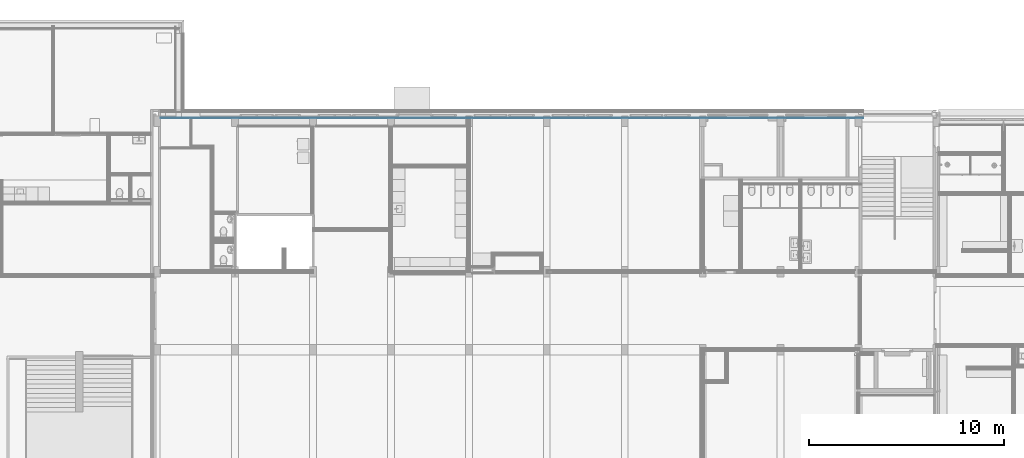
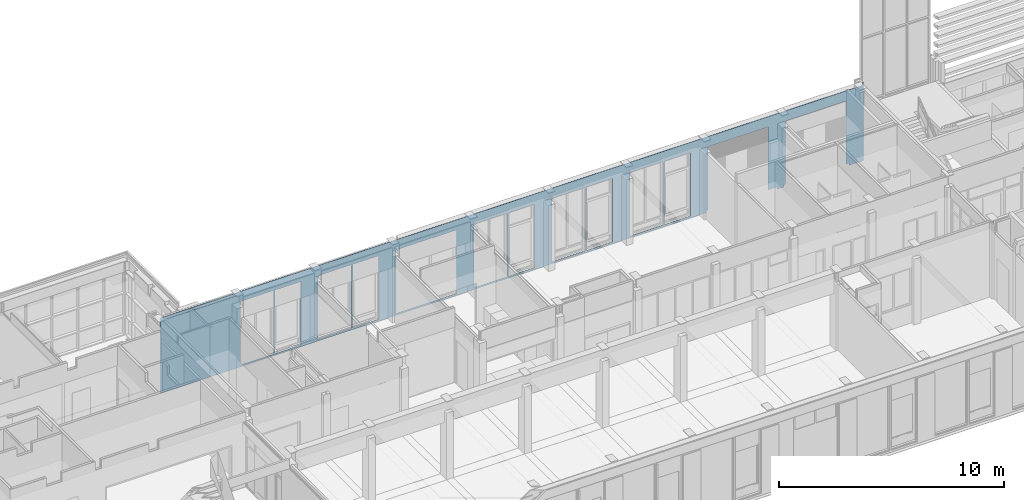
# One storey, part 71 of 109: 1 building element part, 14 openings, 1 element without a shape of its own.
"""IFC2X3 building model written with IfcOpenShell, lengths in millimetres."""

from ifc_helpers import new_model, entity, si_unit, converted_unit, derived_unit, money_unit, direction, frame, origin_with_axes, place, context, subcontext, project, spatial, faceted_brep, material, type_object, element, aggregate, save


model = new_model("IFC2X3")

# Units and contexts
model_context = context("Model", 3, precision=0.01, world=origin_with_axes(), true_north=direction((0.0, 1.0)))
body_context = subcontext(model_context, "Body", "Model", "MODEL_VIEW")
ifc_project = project(units=[si_unit("LENGTHUNIT", "METRE", prefix="MILLI"), si_unit("AREAUNIT", "SQUARE_METRE"), si_unit("VOLUMEUNIT", "CUBIC_METRE"), converted_unit("PLANEANGLEUNIT", "DEGREE", entity("IfcPlaneAngleMeasure", 0.0174532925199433), si_unit("PLANEANGLEUNIT", "RADIAN"), dimensions=[0, 0, 0, 0, 0, 0, 0]), money_unit("EUR"), converted_unit("TIMEUNIT", "Year", entity("IfcTimeMeasure", 31557600.0), si_unit("TIMEUNIT", "SECOND"), dimensions=[0, 0, 1, 0, 0, 0, 0]), si_unit("MASSUNIT", "GRAM", prefix="KILO"), si_unit("THERMODYNAMICTEMPERATUREUNIT", "DEGREE_CELSIUS"), si_unit("LUMINOUSINTENSITYUNIT", "LUMEN"), si_unit("ENERGYUNIT", "JOULE", prefix="MEGA"), derived_unit("THERMALCONDUCTANCEUNIT", [(si_unit("POWERUNIT", "WATT"), 1), (si_unit("LENGTHUNIT", "METRE"), -1), (si_unit("THERMODYNAMICTEMPERATUREUNIT", "KELVIN"), -1)]), derived_unit("SPECIFICHEATCAPACITYUNIT", [(si_unit("ENERGYUNIT", "JOULE"), 1), (si_unit("MASSUNIT", "GRAM", prefix="KILO"), -1), (si_unit("THERMODYNAMICTEMPERATUREUNIT", "KELVIN"), -1)]), derived_unit("MASSDENSITYUNIT", [(si_unit("MASSUNIT", "GRAM", prefix="KILO"), 1), (si_unit("VOLUMEUNIT", "CUBIC_METRE"), -1)])], contexts=[model_context])

# Site, building, storey
site_placement = place(None, origin_with_axes())
site = spatial("IfcSite", under=ifc_project, at=site_placement, Name="<site naam>", CompositionType="ELEMENT")
building_placement = place(site_placement, origin_with_axes())
building = spatial("IfcBuilding", under=site, at=building_placement, Name="<Naam gebouw>", CompositionType="ELEMENT")
storey_placement = place(building_placement, origin_with_axes())
storey = spatial("IfcBuildingStorey", under=building, at=storey_placement, Name="00 Begane grond", CompositionType="ELEMENT", Elevation=0.0)

# Wall, openings, building element part
wall_type = type_object("IfcWallType", Name="HSB_285 gevelbeplating 420", PredefinedType="NOTDEFINED")
wall_placement = place(storey_placement, frame((48251.99999966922, 20297.99999999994, 0.0), z_axis=(0.0, 0.0, 1.0), x_axis=(-1.0, 0.0, 0.0)))
wall = element("IfcWall", 1, at=wall_placement, inside=storey, type_object=wall_type, Name="21_Binnenwand_HSB_285")
opening_1_placement = place(wall_placement, frame((17550.9999996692, 0.0, 100.0), z_axis=(0.0, 0.0, 1.0), x_axis=(1.0, 0.0, 0.0)))
element("IfcOpeningElement", 2, at=opening_1_placement, cuts=wall, Name="21_BU-A-01b sp_305", context=body_context, shape_type="Brep", body=[
    faceted_brep([(663.0000000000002, 212.9999999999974, 3450.0), (-663.0000000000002, 212.9999999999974, 3450.0), (-663.0000000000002, -1.000000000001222, 3450.0), (663.0000000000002, -1.000000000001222, 3450.0), (663.0000000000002, 421.000000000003, 3450.0), (-663.0000000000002, 421.000000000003, 3450.0), (-663.0000000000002, 212.9999999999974, 0.0), (-663.0000000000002, -1.000000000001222, 0.0), (663.0000000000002, -1.000000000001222, 0.0), (663.0000000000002, 212.9999999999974, 0.0), (663.0000000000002, 421.000000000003, 0.0), (-663.0000000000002, 421.000000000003, 0.0)], [[[0, 1, 2, 3]], [[1, 0, 4, 5]], [[1, 6, 7, 2]], [[2, 7, 8, 3]], [[9, 0, 3, 8]], [[0, 9, 10, 4]], [[4, 10, 11, 5]], [[6, 1, 5, 11]], [[6, 9, 8, 7]], [[9, 6, 11, 10]]]),
])
opening_2_placement = place(wall_placement, frame((25551.00012310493, 0.0, 100.0), z_axis=(0.0, 0.0, 1.0), x_axis=(1.0, 0.0, 0.0)))
element("IfcOpeningElement", 3, at=opening_2_placement, cuts=wall, Name="21_BU-A-01b sp_305", context=body_context, shape_type="Brep", body=[
    faceted_brep([(663.0000000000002, 212.9999999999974, 3450.0), (-663.0000000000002, 212.9999999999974, 3450.0), (-663.0000000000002, -1.000000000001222, 3450.0), (663.0000000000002, -1.000000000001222, 3450.0), (663.0000000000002, 421.000000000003, 3450.0), (-663.0000000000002, 421.000000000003, 3450.0), (-663.0000000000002, 212.9999999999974, 0.0), (-663.0000000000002, -1.000000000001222, 0.0), (663.0000000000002, -1.000000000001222, 0.0), (663.0000000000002, 212.9999999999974, 0.0), (663.0000000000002, 421.000000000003, 0.0), (-663.0000000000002, 421.000000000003, 0.0)], [[[0, 1, 2, 3]], [[1, 0, 4, 5]], [[1, 6, 7, 2]], [[2, 7, 8, 3]], [[9, 0, 3, 8]], [[0, 9, 10, 4]], [[4, 10, 11, 5]], [[6, 1, 5, 11]], [[6, 9, 8, 7]], [[9, 6, 11, 10]]]),
])
opening_3_placement = place(wall_placement, frame((27140.99995093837, 0.0, 100.0), z_axis=(0.0, 0.0, 1.0), x_axis=(1.0, 0.0, 0.0)))
element("IfcOpeningElement", 4, at=opening_3_placement, cuts=wall, Name="21_BU-A-01a sp_305", context=body_context, shape_type="Brep", body=[
    faceted_brep([(850.9999999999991, 212.9999999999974, 3450.0), (-850.9999999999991, 212.9999999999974, 3450.0), (-850.9999999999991, -1.000000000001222, 3450.0), (850.9999999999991, -1.000000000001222, 3450.0), (850.9999999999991, 421.000000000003, 3450.0), (-850.9999999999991, 421.000000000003, 3450.0), (-850.9999999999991, 212.9999999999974, 0.0), (-850.9999999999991, -1.000000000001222, 0.0), (850.9999999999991, -1.000000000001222, 0.0), (850.9999999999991, 212.9999999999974, 0.0), (850.9999999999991, 421.000000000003, 0.0), (-850.9999999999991, 421.000000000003, 0.0)], [[[0, 1, 2, 3]], [[1, 0, 4, 5]], [[1, 6, 7, 2]], [[2, 7, 8, 3]], [[9, 0, 3, 8]], [[0, 9, 10, 4]], [[4, 10, 11, 5]], [[6, 1, 5, 11]], [[6, 9, 8, 7]], [[9, 6, 11, 10]]]),
])
opening_4_placement = place(wall_placement, frame((19140.98053610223, 0.0, 100.0), z_axis=(0.0, 0.0, 1.0), x_axis=(1.0, 0.0, 0.0)))
element("IfcOpeningElement", 5, at=opening_4_placement, cuts=wall, Name="21_BU-A-01a sp_305", context=body_context, shape_type="Brep", body=[
    faceted_brep([(850.9999999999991, 212.9999999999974, 3450.0), (-850.9999999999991, 212.9999999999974, 3450.0), (-850.9999999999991, -1.000000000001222, 3450.0), (850.9999999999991, -1.000000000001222, 3450.0), (850.9999999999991, 421.000000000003, 3450.0), (-850.9999999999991, 421.000000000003, 3450.0), (-850.9999999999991, 212.9999999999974, 0.0), (-850.9999999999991, -1.000000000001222, 0.0), (850.9999999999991, -1.000000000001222, 0.0), (850.9999999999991, 212.9999999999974, 0.0), (850.9999999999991, 421.000000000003, 0.0), (-850.9999999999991, 421.000000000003, 0.0)], [[[0, 1, 2, 3]], [[1, 0, 4, 5]], [[1, 6, 7, 2]], [[2, 7, 8, 3]], [[9, 0, 3, 8]], [[0, 9, 10, 4]], [[4, 10, 11, 5]], [[6, 1, 5, 11]], [[6, 9, 8, 7]], [[9, 6, 11, 10]]]),
])
opening_5_placement = place(wall_placement, frame((9551.000010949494, 0.0, 100.0), z_axis=(0.0, 0.0, 1.0), x_axis=(1.0, 0.0, 0.0)))
element("IfcOpeningElement", 6, at=opening_5_placement, cuts=wall, Name="21_BU-A-01b sp_305", context=body_context, shape_type="Brep", body=[
    faceted_brep([(662.9999999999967, 213.000000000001, 3450.0), (-662.9999999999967, 213.000000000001, 3450.0), (-662.9999999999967, -1.000000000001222, 3450.0), (662.9999999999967, -1.000000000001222, 3450.0), (662.9999999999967, 421.000000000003, 3450.0), (-662.9999999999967, 421.000000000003, 3450.0), (-662.9999999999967, 213.000000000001, 0.0), (-662.9999999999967, -1.000000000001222, 0.0), (662.9999999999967, -1.000000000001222, 0.0), (662.9999999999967, 213.000000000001, 0.0), (662.9999999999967, 421.000000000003, 0.0), (-662.9999999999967, 421.000000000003, 0.0)], [[[0, 1, 2, 3]], [[1, 0, 4, 5]], [[1, 6, 7, 2]], [[2, 7, 8, 3]], [[9, 0, 3, 8]], [[0, 9, 10, 4]], [[4, 10, 11, 5]], [[6, 1, 5, 11]], [[6, 9, 8, 7]], [[9, 6, 11, 10]]]),
])
opening_6_placement = place(wall_placement, frame((13550.99999966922, 0.0, 100.0), z_axis=(0.0, 0.0, 1.0), x_axis=(1.0, 0.0, 0.0)))
element("IfcOpeningElement", 7, at=opening_6_placement, cuts=wall, Name="21_BU-A-01b sp_305", context=body_context, shape_type="Brep", body=[
    faceted_brep([(662.9999999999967, 213.000000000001, 3450.0), (-662.9999999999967, 213.000000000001, 3450.0), (-662.9999999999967, -1.000000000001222, 3450.0), (662.9999999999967, -1.000000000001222, 3450.0), (662.9999999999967, 421.000000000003, 3450.0), (-662.9999999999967, 421.000000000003, 3450.0), (-662.9999999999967, 213.000000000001, 0.0), (-662.9999999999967, -1.000000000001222, 0.0), (662.9999999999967, -1.000000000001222, 0.0), (662.9999999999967, 213.000000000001, 0.0), (662.9999999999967, 421.000000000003, 0.0), (-662.9999999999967, 421.000000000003, 0.0)], [[[0, 1, 2, 3]], [[1, 0, 4, 5]], [[1, 6, 7, 2]], [[2, 7, 8, 3]], [[9, 0, 3, 8]], [[0, 9, 10, 4]], [[4, 10, 11, 5]], [[6, 1, 5, 11]], [[6, 9, 8, 7]], [[9, 6, 11, 10]]]),
])
opening_7_placement = place(wall_placement, frame((11140.9999996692, 0.0, 100.0), z_axis=(0.0, 0.0, 1.0), x_axis=(1.0, 0.0, 0.0)))
element("IfcOpeningElement", 8, at=opening_7_placement, cuts=wall, Name="21_BU-A-01a sp_305", context=body_context, shape_type="Brep", body=[
    faceted_brep([(850.9999999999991, 213.000000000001, 3450.0), (-850.9999999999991, 213.000000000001, 3450.0), (-850.9999999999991, -1.000000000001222, 3450.0), (850.9999999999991, -1.000000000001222, 3450.0), (850.9999999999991, 421.000000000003, 3450.0), (-850.9999999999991, 421.000000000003, 3450.0), (-850.9999999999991, 213.000000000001, 0.0), (-850.9999999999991, -1.000000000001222, 0.0), (850.9999999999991, -1.000000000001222, 0.0), (850.9999999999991, 213.000000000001, 0.0), (850.9999999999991, 421.000000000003, 0.0), (-850.9999999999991, 421.000000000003, 0.0)], [[[0, 1, 2, 3]], [[1, 0, 4, 5]], [[1, 6, 7, 2]], [[2, 7, 8, 3]], [[9, 0, 3, 8]], [[0, 9, 10, 4]], [[4, 10, 11, 5]], [[6, 1, 5, 11]], [[6, 9, 8, 7]], [[9, 6, 11, 10]]]),
])
opening_8_placement = place(wall_placement, frame((21551.00000902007, 0.0, 100.0), z_axis=(0.0, 0.0, 1.0), x_axis=(1.0, 0.0, 0.0)))
element("IfcOpeningElement", 9, at=opening_8_placement, cuts=wall, Name="21_BU-A-01b sp_305", context=body_context, shape_type="Brep", body=[
    faceted_brep([(663.0000000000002, 212.9999999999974, 3450.0), (-663.0000000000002, 212.9999999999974, 3450.0), (-663.0000000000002, -1.000000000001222, 3450.0), (663.0000000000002, -1.000000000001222, 3450.0), (663.0000000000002, 421.000000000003, 3450.0), (-663.0000000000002, 421.000000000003, 3450.0), (-663.0000000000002, 212.9999999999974, 0.0), (-663.0000000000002, -1.000000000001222, 0.0), (663.0000000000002, -1.000000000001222, 0.0), (663.0000000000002, 212.9999999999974, 0.0), (663.0000000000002, 421.000000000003, 0.0), (-663.0000000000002, 421.000000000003, 0.0)], [[[0, 1, 2, 3]], [[1, 0, 4, 5]], [[1, 6, 7, 2]], [[2, 7, 8, 3]], [[9, 0, 3, 8]], [[0, 9, 10, 4]], [[4, 10, 11, 5]], [[6, 1, 5, 11]], [[6, 9, 8, 7]], [[9, 6, 11, 10]]]),
])
opening_9_placement = place(wall_placement, frame((29550.99999966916, 0.0, 100.0), z_axis=(0.0, 0.0, 1.0), x_axis=(1.0, 0.0, 0.0)))
element("IfcOpeningElement", 10, at=opening_9_placement, cuts=wall, Name="21_BU-A-01b sp_305", context=body_context, shape_type="Brep", body=[
    faceted_brep([(663.0000000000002, 212.9999999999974, 3450.0), (-663.0000000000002, 212.9999999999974, 3450.0), (-663.0000000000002, -1.000000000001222, 3450.0), (663.0000000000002, -1.000000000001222, 3450.0), (663.0000000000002, 421.000000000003, 3450.0), (-663.0000000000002, 421.000000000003, 3450.0), (-663.0000000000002, 212.9999999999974, 0.0), (-663.0000000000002, -1.000000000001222, 0.0), (663.0000000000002, -1.000000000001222, 0.0), (663.0000000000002, 212.9999999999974, 0.0), (663.0000000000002, 421.000000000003, 0.0), (-663.0000000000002, 421.000000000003, 0.0)], [[[0, 1, 2, 3]], [[1, 0, 4, 5]], [[1, 6, 7, 2]], [[2, 7, 8, 3]], [[9, 0, 3, 8]], [[0, 9, 10, 4]], [[4, 10, 11, 5]], [[6, 1, 5, 11]], [[6, 9, 8, 7]], [[9, 6, 11, 10]]]),
])
opening_10_placement = place(wall_placement, frame((31140.99993875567, 0.0, 100.0), z_axis=(0.0, 0.0, 1.0), x_axis=(1.0, 0.0, 0.0)))
element("IfcOpeningElement", 11, at=opening_10_placement, cuts=wall, Name="21_BU-A-01a sp_305", context=body_context, shape_type="Brep", body=[
    faceted_brep([(850.9999999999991, 212.9999999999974, 3450.0), (-850.9999999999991, 212.9999999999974, 3450.0), (-850.9999999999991, -1.000000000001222, 3450.0), (850.9999999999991, -1.000000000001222, 3450.0), (850.9999999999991, 421.000000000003, 3450.0), (-850.9999999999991, 421.000000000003, 3450.0), (-850.9999999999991, 212.9999999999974, 0.0), (-850.9999999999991, -1.000000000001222, 0.0), (850.9999999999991, -1.000000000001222, 0.0), (850.9999999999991, 212.9999999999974, 0.0), (850.9999999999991, 421.000000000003, 0.0), (-850.9999999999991, 421.000000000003, 0.0)], [[[0, 1, 2, 3]], [[1, 0, 4, 5]], [[1, 6, 7, 2]], [[2, 7, 8, 3]], [[9, 0, 3, 8]], [[0, 9, 10, 4]], [[4, 10, 11, 5]], [[6, 1, 5, 11]], [[6, 9, 8, 7]], [[9, 6, 11, 10]]]),
])
opening_11_placement = place(wall_placement, frame((23073.49996408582, 0.0, 103.0000398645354), z_axis=(0.0, 0.0, 1.0), x_axis=(1.0, 0.0, 0.0)))
element("IfcOpeningElement", 12, at=opening_11_placement, cuts=wall, Name="21_BU-C-02_305", context=body_context, shape_type="Brep", body=[
    faceted_brep([(918.4999990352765, 204.9999999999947, 3451.998648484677), (-918.4999990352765, 204.9999999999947, 3451.998648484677), (-918.4999990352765, -1.000000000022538, 3451.998648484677), (918.4999990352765, -1.000000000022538, 3451.998648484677), (918.4999990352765, 421.000000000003, 3451.998648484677), (-918.4999990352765, 421.000000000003, 3451.998648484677), (-918.4999990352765, 204.9999999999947, 0.0), (-918.4999990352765, -1.000000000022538, 0.0), (918.4999990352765, -1.000000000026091, 0.0), (918.4999990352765, 204.9999999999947, 0.0), (918.4999990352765, 421.000000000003, 0.0), (-918.4999990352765, 421.000000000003, 0.0)], [[[0, 1, 2, 3]], [[1, 0, 4, 5]], [[1, 6, 7, 2]], [[2, 7, 8, 3]], [[9, 0, 3, 8]], [[0, 9, 10, 4]], [[4, 10, 11, 5]], [[6, 1, 5, 11]], [[6, 9, 8, 7]], [[9, 6, 11, 10]]]),
])
opening_12_placement = place(wall_placement, frame((2441.000957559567, 0.0, 78.00000000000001), z_axis=(0.0, 0.0, 1.0), x_axis=(1.0, 0.0, 0.0)))
element("IfcOpeningElement", 13, at=opening_12_placement, cuts=wall, Name="21_BU-F-01_305", context=body_context, shape_type="Brep", body=[
    faceted_brep([(1552.0, 204.9999999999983, 3472.000000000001), (-1552.0, 204.9999999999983, 3472.000000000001), (-1552.0, -1.000000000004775, 3472.000000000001), (1552.0, -1.000000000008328, 3472.000000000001), (1552.0, 421.000000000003, 3472.000000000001), (-1552.0, 421.000000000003, 3472.000000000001), (-1552.0, 204.9999999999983, 0.0), (-1552.0, -1.000000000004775, 0.0), (1552.0, -1.000000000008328, 0.0), (1552.0, 204.9999999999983, 0.0), (1552.0, 421.000000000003, 0.0), (-1552.0, 421.000000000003, 0.0)], [[[0, 1, 2, 3]], [[1, 0, 4, 5]], [[1, 6, 7, 2]], [[2, 7, 8, 3]], [[9, 0, 3, 8]], [[0, 9, 10, 4]], [[4, 10, 11, 5]], [[6, 1, 5, 11]], [[6, 9, 8, 7]], [[9, 6, 11, 10]]]),
])
opening_13_placement = place(wall_placement, frame((6439.999999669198, 0.0, 77.99999999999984), z_axis=(0.0, 0.0, 1.0), x_axis=(1.0, 0.0, 0.0)))
element("IfcOpeningElement", 14, at=opening_13_placement, cuts=wall, Name="21_BU-F-01_305", context=body_context, shape_type="Brep", body=[
    faceted_brep([(1552.0, 204.9999999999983, 3472.000000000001), (-1552.0, 204.9999999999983, 3472.000000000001), (-1552.0, -1.000000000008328, 3472.000000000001), (1552.0, -1.00000000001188, 3472.000000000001), (1552.0, 421.000000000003, 3472.000000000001), (-1552.0, 421.000000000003, 3472.000000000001), (-1552.0, 204.9999999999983, 0.0), (-1552.0, -1.000000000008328, 0.0), (1552.0, -1.00000000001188, 0.0), (1552.0, 204.9999999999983, 0.0), (1552.0, 421.000000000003, 0.0), (-1552.0, 421.000000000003, 0.0)], [[[0, 1, 2, 3]], [[1, 0, 4, 5]], [[1, 6, 7, 2]], [[2, 7, 8, 3]], [[9, 0, 3, 8]], [[0, 9, 10, 4]], [[4, 10, 11, 5]], [[6, 1, 5, 11]], [[6, 9, 8, 7]], [[9, 6, 11, 10]]]),
])
opening_14_placement = place(wall_placement, frame((15140.99984577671, 0.0, 100.0), z_axis=(0.0, 0.0, 1.0), x_axis=(1.0, 0.0, 0.0)))
element("IfcOpeningElement", 15, at=opening_14_placement, cuts=wall, Name="21_BU-A-01a sp_305", context=body_context, shape_type="Brep", body=[
    faceted_brep([(850.9999999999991, 212.9999999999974, 3450.0), (-850.9999999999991, 212.9999999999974, 3450.0), (-850.9999999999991, -1.000000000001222, 3450.0), (850.9999999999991, -1.000000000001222, 3450.0), (850.9999999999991, 421.000000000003, 3450.0), (-850.9999999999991, 421.000000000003, 3450.0), (-850.9999999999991, 212.9999999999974, 0.0), (-850.9999999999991, -1.000000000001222, 0.0), (850.9999999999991, -1.000000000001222, 0.0), (850.9999999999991, 212.9999999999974, 0.0), (850.9999999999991, 421.000000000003, 0.0), (-850.9999999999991, 421.000000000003, 0.0)], [[[0, 1, 2, 3]], [[1, 0, 4, 5]], [[1, 6, 7, 2]], [[2, 7, 8, 3]], [[9, 0, 3, 8]], [[0, 9, 10, 4]], [[4, 10, 11, 5]], [[6, 1, 5, 11]], [[6, 9, 8, 7]], [[9, 6, 11, 10]]]),
])
ifc_material = material(Name="hout_OSB")
building_element_part_placement = place(wall_placement, origin_with_axes())
building_element_part = element("IfcBuildingElementPart", 16, at=building_element_part_placement, material=ifc_material, Name="hout_OSB", context=body_context, shape_type="Brep", body=[
    faceted_brep([(32116.47051499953, 392.5000000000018, 4100.000000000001), (77.42214540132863, 392.5000000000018, 4100.000000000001), (77.42214540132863, 392.5000000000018, 4250.0), (0.0, 392.5000000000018, 4250.0), (0.0, 392.4999999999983, 3.000000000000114), (76.9999996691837, 392.5000000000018, 3.000000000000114), (76.9999996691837, 392.4999999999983, 0.0), (739.1156105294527, 392.4999999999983, 0.0), (739.1156105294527, 392.5000000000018, 129.9999999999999), (4076.999999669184, 392.5000000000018, 129.9999999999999), (4076.999999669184, 392.4999999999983, 0.0), (4426.999999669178, 392.4999999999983, 0.0), (4426.999999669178, 392.5000000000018, 129.9999999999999), (8077.000047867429, 392.5000000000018, 129.9999999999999), (8077.000047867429, 392.4999999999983, 0.0), (8326.999999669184, 392.4999999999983, 0.0), (8326.999999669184, 392.5000000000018, 3.000000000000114), (20176.99984466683, 392.4999999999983, 3.000000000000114), (20176.99984466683, 392.4999999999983, 0.0), (20326.99993134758, 392.4999999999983, 0.0), (20326.99993134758, 392.4999999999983, 3.000000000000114), (24177.00005669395, 392.4999999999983, 3.000000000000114), (24177.00005669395, 392.4999999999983, 0.0), (24426.99990839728, 392.4999999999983, 0.0), (24426.99990839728, 392.4999999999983, 3.000000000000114), (28076.99984942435, 392.4999999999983, 3.000000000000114), (28076.99984942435, 392.4999999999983, 0.0), (28427.00011923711, 392.4999999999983, 0.0), (28427.00011923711, 392.4999999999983, 3.000000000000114), (32077.00001533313, 392.4999999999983, 3.000000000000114), (32077.00001533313, 392.4999999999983, 0.0), (32427.00006550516, 392.4999999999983, 0.0), (32427.00006550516, 392.4999999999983, 3.000000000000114), (34464.49991009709, 392.4999999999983, 3.000000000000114), (34464.49991009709, 392.4999999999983, 0.0), (36076.99999966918, 392.4999999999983, 0.0), (36076.99999966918, 392.4999999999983, 4100.000000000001), (35766.47051499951, 392.5000000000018, 4100.000000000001), (35766.47051499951, 392.5000000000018, 4090.499903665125), (32116.47051499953, 392.5000000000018, 4090.499903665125), (4427.000040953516, 392.5000000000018, 3555.000039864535), (8076.999999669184, 392.5000000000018, 3555.000039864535), (8076.999999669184, 392.5000000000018, 2729.999960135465), (4427.000040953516, 392.5000000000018, 2729.999960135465), (889.000957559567, 392.5000000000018, 3555.000039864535), (4077.000034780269, 392.5000000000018, 3555.000039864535), (4077.000034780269, 392.5000000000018, 2729.999960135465), (889.000957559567, 392.5000000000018, 2729.999960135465), (35766.47051499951, 392.5000000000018, 3938.499955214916), (35766.47051499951, 392.5000000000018, 3928.999844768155), (32116.47051499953, 392.5000000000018, 3928.999844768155), (32116.47051499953, 392.5000000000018, 3938.499955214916), (32116.47051499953, 407.5000000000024, 4100.000000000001), (77.42214540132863, 407.5000000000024, 4100.000000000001), (77.42214540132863, 407.4999999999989, 4250.0), (0.0, 407.4999999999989, 4250.0), (0.0, 407.4999999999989, 3.000000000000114), (76.9999996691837, 407.5000000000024, 3.000000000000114), (76.9999996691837, 407.4999999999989, 0.0), (739.1156105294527, 407.4999999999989, 0.0), (739.1156105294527, 407.5000000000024, 129.9999999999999), (4076.999999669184, 407.5000000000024, 129.9999999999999), (4076.999999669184, 407.4999999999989, 0.0), (4426.999999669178, 407.4999999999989, 0.0), (4426.999999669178, 407.5000000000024, 129.9999999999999), (8077.000047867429, 407.5000000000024, 129.9999999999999), (8077.000047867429, 407.4999999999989, 0.0), (8326.999999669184, 407.4999999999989, 0.0), (8326.999999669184, 407.5000000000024, 3.000000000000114), (20176.99984466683, 407.4999999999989, 3.000000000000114), (20176.99984466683, 407.5000000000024, 0.0), (20326.99993171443, 407.5000000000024, 0.0), (20326.99993171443, 407.4999999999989, 3.000000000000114), (24177.00005669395, 407.4999999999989, 3.000000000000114), (24177.00005669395, 407.4999999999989, 0.0), (24426.99990839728, 407.4999999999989, 0.0), (24426.99990839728, 407.4999999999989, 3.000000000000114), (28076.99984942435, 407.4999999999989, 3.000000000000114), (28076.99984942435, 407.4999999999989, 0.0), (28427.00011923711, 407.4999999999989, 0.0), (28427.00011923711, 407.4999999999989, 3.000000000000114), (32077.00001533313, 407.4999999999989, 3.000000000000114), (32077.00001533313, 407.4999999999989, 0.0), (32427.00006550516, 407.4999999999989, 0.0), (32427.00006550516, 407.4999999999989, 3.000000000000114), (34464.49991009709, 407.4999999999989, 3.000000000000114), (34464.49991009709, 407.4999999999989, 0.0), (36076.99999966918, 407.4999999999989, 0.0), (36076.99999966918, 407.4999999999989, 4100.000000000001), (35766.47051499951, 407.5000000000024, 4100.000000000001), (35766.47051499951, 407.5000000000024, 4090.499903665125), (35766.47051499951, 406.3987209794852, 4090.499903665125), (35766.47051499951, 406.3987209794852, 3938.499955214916), (35766.47051499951, 407.5000000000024, 3938.499955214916), (35766.47051499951, 407.5000000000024, 3928.999844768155), (35766.47051499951, 400.398720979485, 3938.499955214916), (35766.47051499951, 400.398720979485, 4090.499903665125), (34359.7499996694, 397.9999920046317, 4090.499903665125), (34354.2499996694, 397.9999920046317, 4090.499903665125), (34354.2499996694, 400.398720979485, 4090.499903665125), (32116.47051499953, 400.398720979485, 4090.499903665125), (34359.74999966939, 400.398720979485, 4090.499903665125), (32116.47051499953, 400.398720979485, 3938.499955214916), (32116.47051499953, 407.5000000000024, 3928.999844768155), (32116.47051499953, 407.5000000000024, 3938.499955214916), (32116.47051499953, 406.3987209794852, 3938.499955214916), (32116.47051499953, 406.3987209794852, 4090.499903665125), (32116.47051499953, 407.5000000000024, 4090.499903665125), (4427.000040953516, 401.1000227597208, 3555.000039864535), (8076.999999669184, 401.1000227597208, 3555.000039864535), (8076.999999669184, 401.1000227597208, 2729.999960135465), (4427.000040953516, 401.1000227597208, 2729.999960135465), (889.000957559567, 401.1000227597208, 3555.000039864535), (4077.000034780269, 401.1000227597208, 3555.000039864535), (4077.000034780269, 401.1000227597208, 2729.999960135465), (889.000957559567, 401.1000227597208, 2729.999960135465), (34354.2499996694, 407.5000000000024, 4090.499903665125), (34354.2499996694, 407.5000000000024, 3975.498786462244), (34286.99999966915, 407.5000000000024, 3975.498786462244), (34286.99999966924, 407.5000000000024, 3966.998786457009), (34426.99999966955, 407.5000000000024, 3966.998786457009), (34426.99999966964, 407.5000000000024, 3975.498786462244), (34359.7499996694, 407.5000000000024, 3975.498786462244), (34359.74999966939, 407.5000000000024, 4090.499903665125), (34359.74999966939, 406.3987209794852, 4090.499903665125), (34426.99999966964, 406.3987209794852, 3975.498786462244), (34426.99999966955, 406.3987209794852, 3966.998786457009), (34286.99999966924, 406.3987209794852, 3966.998786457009), (34286.99999966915, 406.3987209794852, 3975.498786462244), (34354.2499996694, 406.3987209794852, 3975.498786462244), (34354.2499996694, 406.3987209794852, 4090.499903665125), (34359.7499996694, 406.3987209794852, 3975.498786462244), (34354.2499996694, 400.398720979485, 3975.498786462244), (34286.99999966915, 400.398720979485, 3975.498786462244), (34286.99999966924, 400.398720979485, 3966.998786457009), (34426.99999966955, 400.398720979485, 3966.998786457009), (34426.99999966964, 400.398720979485, 3975.498786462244), (34359.7499996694, 400.398720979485, 3975.498786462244), (34354.2499996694, 397.9999920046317, 3975.498786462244), (34359.7499996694, 397.9999920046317, 3975.498786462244), (34426.99999966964, 397.9999920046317, 3975.498786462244), (34426.99999966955, 397.9999920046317, 3966.998786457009), (34286.99999966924, 397.9999920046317, 3966.998786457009), (34286.99999966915, 397.9999920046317, 3975.498786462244)], [[[0, 1, 2, 3, 4, 5, 6, 7, 8, 9, 10, 11, 12, 13, 14, 15, 16, 17, 18, 19, 20, 21, 22, 23, 24, 25, 26, 27, 28, 29, 30, 31, 32, 33, 34, 35, 36, 37, 38, 39], [40, 41, 42, 43], [44, 45, 46, 47], [48, 49, 50, 51]], [[1, 0, 52, 53]], [[54, 2, 1, 53]], [[2, 54, 55, 3]], [[3, 55, 56, 4]], [[56, 57, 5, 4]], [[57, 58, 6, 5]], [[6, 58, 59, 7]], [[59, 60, 8, 7]], [[60, 61, 9, 8]], [[61, 62, 10, 9]], [[10, 62, 63, 11]], [[63, 64, 12, 11]], [[64, 65, 13, 12]], [[65, 66, 14, 13]], [[67, 15, 14, 66]], [[67, 68, 16, 15]], [[68, 69, 17, 16]], [[69, 70, 18, 17]], [[18, 70, 71, 19]], [[71, 72, 20, 19]], [[72, 73, 21, 20]], [[73, 74, 22, 21]], [[75, 23, 22, 74]], [[75, 76, 24, 23]], [[76, 77, 25, 24]], [[77, 78, 26, 25]], [[79, 27, 26, 78]], [[79, 80, 28, 27]], [[80, 81, 29, 28]], [[81, 82, 30, 29]], [[83, 31, 30, 82]], [[83, 84, 32, 31]], [[84, 85, 33, 32]], [[85, 86, 34, 33]], [[87, 35, 34, 86]], [[88, 36, 35, 87]], [[89, 37, 36, 88]], [[37, 89, 90, 91, 92, 93, 94, 49, 48, 95, 96, 38]], [[97, 98, 99, 100, 39, 38, 96, 101]], [[52, 0, 39, 100, 102, 51, 50, 103, 104, 105, 106, 107]], [[108, 109, 41, 40]], [[109, 110, 42, 41]], [[110, 111, 43, 42]], [[111, 108, 40, 43]], [[112, 113, 45, 44]], [[113, 114, 46, 45]], [[114, 115, 47, 46]], [[115, 112, 44, 47]], [[103, 50, 49, 94]], [[95, 48, 51, 102]], [[53, 52, 107, 116, 117, 118, 119, 120, 121, 122, 123, 90, 89, 88, 87, 86, 85, 84, 83, 82, 81, 80, 79, 78, 77, 76, 75, 74, 73, 72, 71, 70, 69, 68, 67, 66, 65, 64, 63, 62, 61, 60, 59, 58, 57, 56, 55, 54], [103, 94, 93, 104]], [[90, 123, 124, 91]], [[125, 126, 127, 128, 129, 130, 106, 105, 92, 91, 124, 131]], [[105, 104, 93, 92]], [[100, 99, 132, 133, 134, 135, 136, 137, 101, 96, 95, 102]], [[138, 98, 97, 139, 140, 141, 142, 143]], [[132, 99, 98, 138]], [[139, 97, 101, 137]], [[106, 130, 116, 107]], [[108, 111, 110, 109]], [[112, 115, 114, 113]], [[117, 116, 130, 129]], [[117, 129, 128, 118]], [[118, 128, 127, 119]], [[119, 127, 126, 120]], [[120, 126, 125, 121]], [[121, 125, 131, 122]], [[122, 131, 124, 123]], [[143, 133, 132, 138]], [[142, 134, 133, 143]], [[141, 135, 134, 142]], [[140, 136, 135, 141]], [[139, 137, 136, 140]]]),
])
aggregate(wall, [building_element_part])

save(model, "model.ifc")
